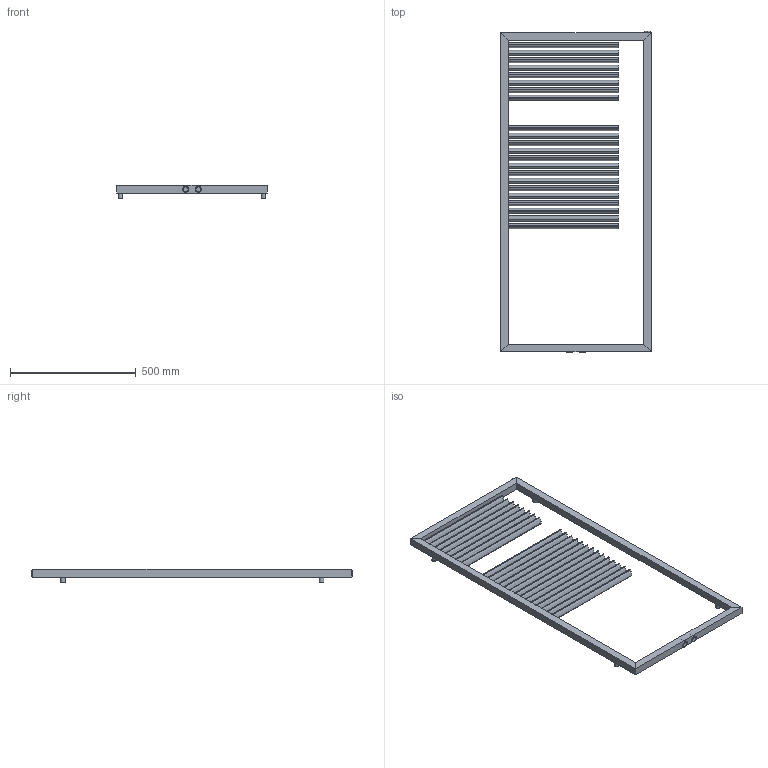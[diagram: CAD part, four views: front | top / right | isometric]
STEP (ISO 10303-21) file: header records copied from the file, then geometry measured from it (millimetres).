
FILE_DESCRIPTION(/* description */ (''),/* implementation_level */ '2;1');
FILE_NAME(/* name */ 'C:\Grzejniki\13DLUXRAD\łazienkowe\WEGA\WEGA 820x500.iam.stp',/* time_stamp */ '2016-06-28T17:35:44+02:00',/* author */ ('m.szydziak'),/* organization */ (''),/* preprocessor_version */ 'ST-DEVELOPER v16.5',/* originating_system */ 'Autodesk Inventor 2017',/* authorisation */ '');
FILE_SCHEMA (('AUTOMOTIVE_DESIGN { 1 0 10303 214 3 1 1 }'));
Length unit declared in the file: millimetre
Products named in the file (13): WEGA 820x500; WEGA 820x500 szkielet; Frame0001; Skeleton0001; ISO 1035/2 - 30 x 30 - 1270; ISO 1035/2 - 30 x 30 - 1270_1; ISO 1035/2 - 30 x 30 - 600; ISO 1035/2 - 30 x 30 - 600_1; 30x20x1,2x440; korek; uchwyt stały; ZDC dzwonki krótkie; dzwonek krótki G0,5inch
Assembly tree (37 placements, depth 3):
  WEGA 820x500
    WEGA 820x500 szkielet
    Frame0001
      Skeleton0001
      ISO 1035/2 - 30 x 30 - 1270
      ISO 1035/2 - 30 x 30 - 1270_1
      ISO 1035/2 - 30 x 30 - 600
      ISO 1035/2 - 30 x 30 - 600_1
    30x20x1,2x440  x22
    korek
    uchwyt stały  x4
    ZDC dzwonki krótkie
      dzwonek krótki G0,5inch  x2
Bounding box: 600 x 1281 x 52 mm (x, y, z)
Volume: 4173108.7 mm3; surface area: 1956971.8 mm2
Topology: 33 solids, 55 shells, 371 faces, 789 edges, 532 vertices
Faces by surface type: cylinder 233, plane 138
Full cylindrical faces by diameter (mm): 15 x4, 18 x4, 18.631 x2, 24 x1, 25 x2
Entity records: 2214 total; most frequent: DIRECTION 390, CARTESIAN_POINT 331, ORIENTED_EDGE 246, AXIS2_PLACEMENT_3D 152, EDGE_CURVE 123, LINE 86, VECTOR 86, VERTEX_POINT 85
